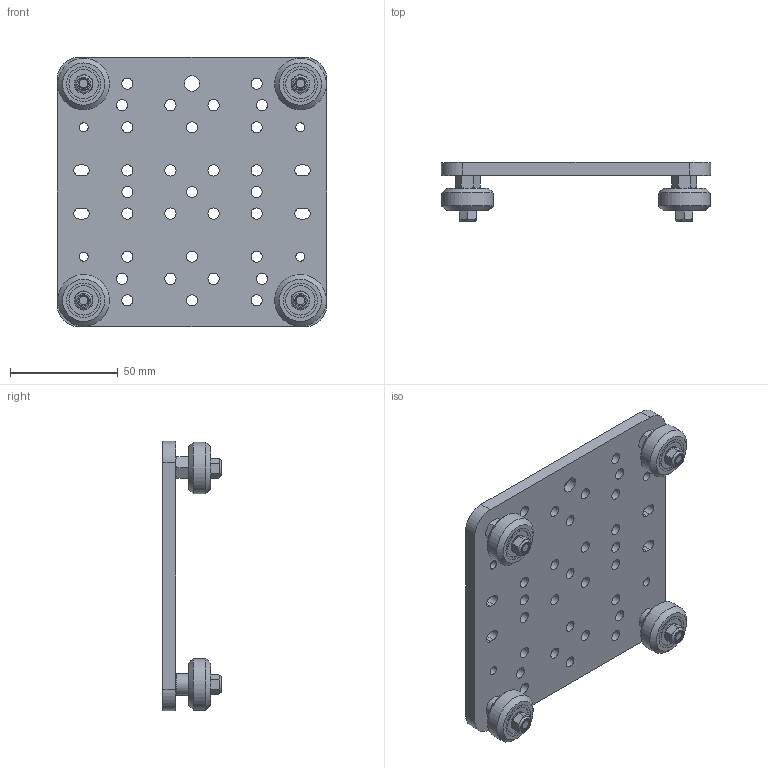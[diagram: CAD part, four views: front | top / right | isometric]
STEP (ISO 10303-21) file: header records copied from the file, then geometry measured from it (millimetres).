
FILE_DESCRIPTION(('FreeCAD Model'),'2;1');
FILE_NAME('Open CASCADE Shape Model','2021-05-04T10:59:03',('Author'),( ''),'Open CASCADE STEP processor 7.5','FreeCAD','Unknown');
FILE_SCHEMA(('AUTOMOTIVE_DESIGN { 1 0 10303 214 1 1 1 1 }'));
Length unit declared in the file: millimetre
Products named in the file (9): XLarge C-Beam Gantry Kit v2; Low Profile Screw M5 v1; Nylon Insert Lock Nut M5 v1; Aluminum Spacer 6mm v1; Ball Bearing 5 x 16 x 5 v1; Precision Shim 8 x 5 x 1 v1; Eccentric Spacer 6mm v1; Xtreme Solid V Wheel v1; C-Beam Gantry Plate XLarge v1
Assembly tree (29 placements, depth 2):
  XLarge C-Beam Gantry Kit v2
    Low Profile Screw M5 v1  x4
    Nylon Insert Lock Nut M5 v1  x4
    Aluminum Spacer 6mm v1  x2
    Ball Bearing 5 x 16 x 5 v1  x8
    Precision Shim 8 x 5 x 1 v1  x4
    Eccentric Spacer 6mm v1  x2
    Xtreme Solid V Wheel v1  x4
    C-Beam Gantry Plate XLarge v1
Bounding box: 125 x 27.2 x 125 mm (x, y, z)
Volume: 105172.9 mm3; surface area: 54824.8 mm2
Topology: 29 solids, 29 shells, 484 faces, 1277 edges, 920 vertices
Faces by surface type: plane 211, cylinder 165, cone 100, torus 8
Full cylindrical faces by diameter (mm): 4.2 x4, 4.25 x4, 5 x22, 5.1 x5, 5.2 x29, 5.3 x4, 7.11 x2, 7.2 x3, 8 x4, 8.6 x16, 9.135 x3, 10 x2, 12.25 x3, 13.6 x16, 14 x4, 16 x16, 23.9 x4
Entity records: 17342 total; most frequent: CARTESIAN_POINT 4276, DIRECTION 2465, ORIENTED_EDGE 1228, PCURVE 1228, DEFINITIONAL_REPRESENTATION 1228, LINE 1006, VECTOR 1006, CIRCLE 634
